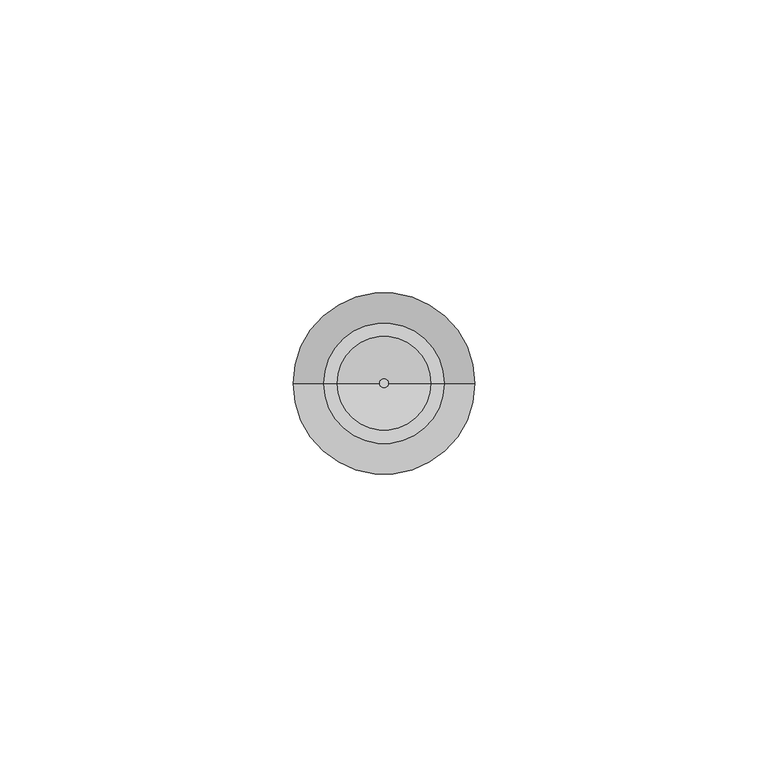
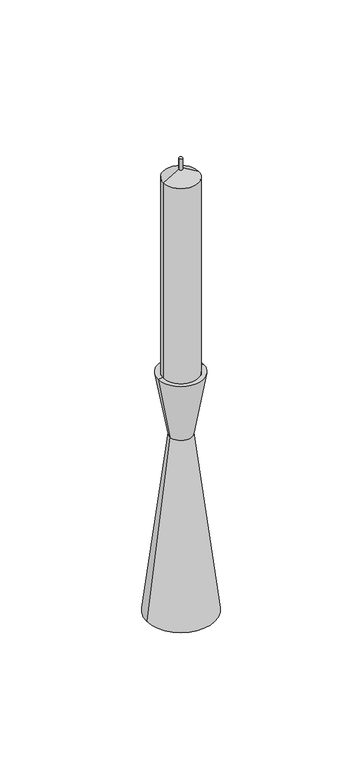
"""IFC4 building model written with IfcOpenShell, lengths in millimetres: proxy geometry, Table Candle : Table Candle."""

from ifc_helpers import new_model, si_unit, point, frame, origin, origin_2d, place, context, project, spatial, polyline, circle_curve, trimmed, segment, composite_curve, outline, extrude, source, transform, mapped, element, save
from ifc_brep_helpers import plane_surface, cylinder_surface, revolved_surface, advanced_brep


def specialty_equipment_4ef43544(model_context):
    return source(origin(), model_context, "Body", "SolidModel", [
        extrude(outline(composite_curve([segment(trimmed(circle_curve(origin_2d(), 0.75), [point((-0.75, 0.0))], [point((0.75, 0.0))], False, "CARTESIAN"), True, "CONTINUOUS"), segment(trimmed(circle_curve(origin_2d(), 0.75), [point((0.75, 0.0))], [point((-0.75, 0.0))], False, "CARTESIAN"), True, "CONTINUOUS")], self_intersect=False)), frame((0.0, 0.0, 208.0142586), z_axis=(0.0, 0.0, 1.0), x_axis=(1.0, 0.0, 0.0)), (0.0, 0.0, 1.0), 9.1520847),
        advanced_brep(
        [(0.0, 0.0, 108.0142586), (-8.0, 0.0, 108.0142586), (8.0, 0.0, 108.0142586), (8.0, 0.0, 208.0142586), (-8.0, 0.0, 208.0142586), (0.0, 0.0, 212.6330608)],
        [
            (0, 1),
            (1, 2, circle_curve(frame((0.0, 0.0, 108.0142586), z_axis=(0.0, 0.0, -1.0), x_axis=(-1.0, 0.0, 0.0)), 8.0)),
            (2, 0),
            (2, 1, circle_curve(frame((0.0, 0.0, 108.0142586), z_axis=(0.0, 0.0, -1.0), x_axis=(-1.0, 0.0, 0.0)), 8.0)),
            (3, 4, circle_curve(frame((0.0, 0.0, 208.0142586), z_axis=(0.0, 0.0, 1.0), x_axis=(-1.0, 0.0, 0.0)), 8.0)),
            (4, 5),
            (5, 3),
            (4, 3, circle_curve(frame((0.0, 0.0, 208.0142586), z_axis=(0.0, 0.0, 1.0), x_axis=(-1.0, 0.0, 0.0)), 8.0)),
            (1, 4),
            (3, 2),
        ],
        [
            plane_surface(frame((0.0, 0.0, 108.0142586), z_axis=(0.0, 0.0, -1.0), x_axis=(-1.0, 0.0, 0.0))),
            revolved_surface(polyline([(0.0, 0.0, 212.6330608), (-8.0, 0.0, 208.0142586)]), (0.0, 0.0, 98.0142586), (0.0, 0.0, -1.0)),
            cylinder_surface(frame((0.0, 0.0, 98.0142586), z_axis=(0.0, 0.0, -1.0), x_axis=(-1.0, 0.0, 0.0)), 8.0),
        ],
        [
            (0, [[1, 2, 3]]),
            (0, [[-3, 4, -1]]),
            (1, [[5, 6, 7]]),
            (1, [[8, -7, -6]]),
            (2, [[-2, 9, -5, 10]]),
            (2, [[-4, -10, -8, -9]]),
        ],
    ),
        advanced_brep(
        [(0.0, 0.0, 0.0), (-15.5, 0.0, 0.0), (15.5, 0.0, 0.0), (8.0, 0.0, 108.0142586), (-8.0, 0.0, 108.0142586), (0.0, 0.0, 108.0142586), (8.0, 0.0, 114.5442326), (-8.0, 0.0, 114.5442326), (10.2755853, 0.0, 114.5442326), (-10.2755853, 0.0, 114.5442326), (5.06614, 0.0, 85.0), (-5.06614, 0.0, 85.0)],
        [
            (0, 1),
            (1, 2, circle_curve(frame((0.0, 0.0, 0.0), z_axis=(0.0, 0.0, -1.0), x_axis=(-1.0, 0.0, 0.0)), 15.5)),
            (2, 0),
            (2, 1, circle_curve(frame((0.0, 0.0, 0.0), z_axis=(0.0, 0.0, -1.0), x_axis=(-1.0, 0.0, 0.0)), 15.5)),
            (3, 4, circle_curve(frame((0.0, 0.0, 108.0142586), z_axis=(0.0, 0.0, 1.0), x_axis=(-1.0, 0.0, 0.0)), 8.0)),
            (4, 5),
            (5, 3),
            (4, 3, circle_curve(frame((0.0, 0.0, 108.0142586), z_axis=(0.0, 0.0, 1.0), x_axis=(-1.0, 0.0, 0.0)), 8.0)),
            (6, 7, circle_curve(frame((0.0, 0.0, 114.5442326), z_axis=(0.0, 0.0, 1.0), x_axis=(-1.0, 0.0, 0.0)), 8.0)),
            (7, 4),
            (3, 6),
            (7, 6, circle_curve(frame((0.0, 0.0, 114.5442326), z_axis=(0.0, 0.0, 1.0), x_axis=(-1.0, 0.0, 0.0)), 8.0)),
            (8, 9, circle_curve(frame((0.0, 0.0, 114.5442326), z_axis=(0.0, 0.0, 1.0), x_axis=(-1.0, 0.0, 0.0)), 10.2755853)),
            (9, 7),
            (6, 8),
            (9, 8, circle_curve(frame((0.0, 0.0, 114.5442326), z_axis=(0.0, 0.0, 1.0), x_axis=(-1.0, 0.0, 0.0)), 10.2755853)),
            (10, 11, circle_curve(frame((0.0, 0.0, 85.0), z_axis=(0.0, 0.0, 1.0), x_axis=(-1.0, 0.0, 0.0)), 5.06614)),
            (11, 9),
            (8, 10),
            (11, 10, circle_curve(frame((0.0, 0.0, 85.0), z_axis=(0.0, 0.0, 1.0), x_axis=(-1.0, 0.0, 0.0)), 5.06614)),
            (1, 11),
            (10, 2),
        ],
        [
            plane_surface(frame((0.0, 0.0, 0.0), z_axis=(0.0, 0.0, -1.0), x_axis=(-1.0, 0.0, 0.0))),
            plane_surface(frame((0.0, 0.0, 108.0142586), z_axis=(0.0, 0.0, 1.0), x_axis=(-1.0, 0.0, 0.0))),
            revolved_surface(polyline([(-8.0, 0.0, 108.0142586), (-8.0, 0.0, 114.5442326)]), (0.0, 0.0, 0.0), (0.0, 0.0, -1.0)),
            plane_surface(frame((0.0, 0.0, 114.5442326), z_axis=(0.0, 0.0, 1.0), x_axis=(-1.0, 0.0, 0.0))),
            revolved_surface(polyline([(-10.2755853, 0.0, 114.5442326), (-5.06614, 0.0, 85.0)]), (0.0, 0.0, 0.0), (0.0, 0.0, -1.0)),
            revolved_surface(polyline([(-5.06614, 0.0, 85.0), (-15.5, 0.0, 0.0)]), (0.0, 0.0, 0.0), (0.0, 0.0, -1.0)),
        ],
        [
            (0, [[1, 2, 3]]),
            (0, [[-3, 4, -1]]),
            (1, [[5, 6, 7]]),
            (1, [[8, -7, -6]]),
            (2, [[9, 10, -5, 11]]),
            (2, [[12, -11, -8, -10]]),
            (3, [[13, 14, -9, 15]]),
            (3, [[16, -15, -12, -14]]),
            (4, [[17, 18, -13, 19]]),
            (4, [[20, -19, -16, -18]]),
            (5, [[-2, 21, -17, 22]]),
            (5, [[-4, -22, -20, -21]]),
        ],
    ),
    ])


if __name__ == "__main__":
    model = new_model("IFC4")
    model_context = context("Model", 3, world=origin())
    ifc_project = project(units=[si_unit("LENGTHUNIT", "METRE", prefix="MILLI")], contexts=[model_context])
    site = spatial("IfcSite", under=ifc_project)
    building = spatial("IfcBuilding", under=site)
    placement = place(None, origin())
    specialty_equipment_shape = specialty_equipment_4ef43544(model_context)
    element("IfcBuildingElementProxy", 1, Name="Table Candle : Table Candle", ObjectType="Table Candle : Table Candle", at=placement, inside=building, context=model_context, shape_type="MappedRepresentation", body=[
        mapped(specialty_equipment_shape, transform((0.0, 0.0, 0.0), x_axis=(1.0, 0.0, 0.0), y_axis=(0.0, 1.0, 0.0), z_axis=(0.0, 0.0, 1.0))),
    ])
    save(model, "model.ifc")
